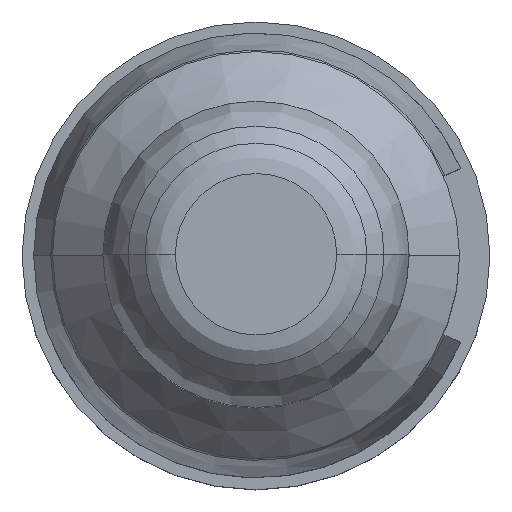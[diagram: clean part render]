
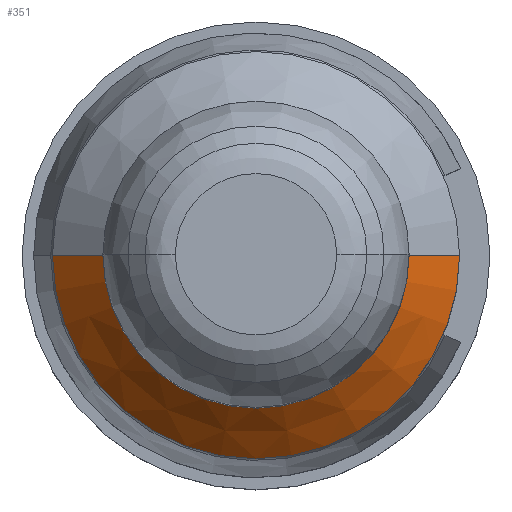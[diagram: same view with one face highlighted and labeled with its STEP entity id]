
A CAD part, top view. The second image highlights one B-rep face of the part: STEP entity #351.
In plain terms, the highlighted conical face has half-angle 44.519 degrees and reference radius 1.611 mm.
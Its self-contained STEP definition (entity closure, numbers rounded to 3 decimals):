
#309=CONICAL_SURFACE('',#1034,1.611,44.519);
#351=ADVANCED_FACE('',(#408),#309,.T.);
#408=FACE_OUTER_BOUND('',#449,.T.);
#449=EDGE_LOOP('',(#631,#632,#633,#634));
#508=CIRCLE('',#1027,1.79);
#511=CIRCLE('',#1033,2.38);
#631=ORIENTED_EDGE('',*,*,#848,.F.);
#632=ORIENTED_EDGE('',*,*,#845,.F.);
#633=ORIENTED_EDGE('',*,*,#850,.F.);
#634=ORIENTED_EDGE('',*,*,#851,.T.);
#765=VERTEX_POINT('',#1634);
#766=VERTEX_POINT('',#1636);
#767=VERTEX_POINT('',#1642);
#768=VERTEX_POINT('',#1644);
#845=EDGE_CURVE('',#765,#766,#508,.T.);
#848=EDGE_CURVE('',#766,#767,#915,.T.);
#850=EDGE_CURVE('',#768,#765,#916,.T.);
#851=EDGE_CURVE('',#768,#767,#511,.T.);
#915=LINE('',#1641,#957);
#916=LINE('',#1645,#958);
#957=VECTOR('',#1191,1.);
#958=VECTOR('',#1194,1.);
#1027=AXIS2_PLACEMENT_3D('',#1635,#1182,#1183);
#1033=AXIS2_PLACEMENT_3D('',#1647,#1197,#1198);
#1034=AXIS2_PLACEMENT_3D('',#1648,#1199,#1200);
#1182=DIRECTION('',(0.,0.,1.));
#1183=DIRECTION('',(-1.,0.,0.));
#1191=DIRECTION('',(0.701,0.,-0.713));
#1194=DIRECTION('',(0.701,0.,0.713));
#1197=DIRECTION('',(0.,0.,1.));
#1198=DIRECTION('',(-1.,0.,0.));
#1199=DIRECTION('',(0.,0.,-1.));
#1200=DIRECTION('',(0.989,0.145,0.));
#1634=CARTESIAN_POINT('',(-1.79,0.,5.55));
#1635=CARTESIAN_POINT('',(0.,0.,5.55));
#1636=CARTESIAN_POINT('',(1.79,0.,5.55));
#1641=CARTESIAN_POINT('',(1.79,0.,5.55));
#1642=CARTESIAN_POINT('',(2.38,0.,4.95));
#1644=CARTESIAN_POINT('',(-2.38,0.,4.95));
#1645=CARTESIAN_POINT('',(-2.38,0.,4.95));
#1647=CARTESIAN_POINT('',(0.,0.,4.95));
#1648=CARTESIAN_POINT('',(0.,0.,5.732));
